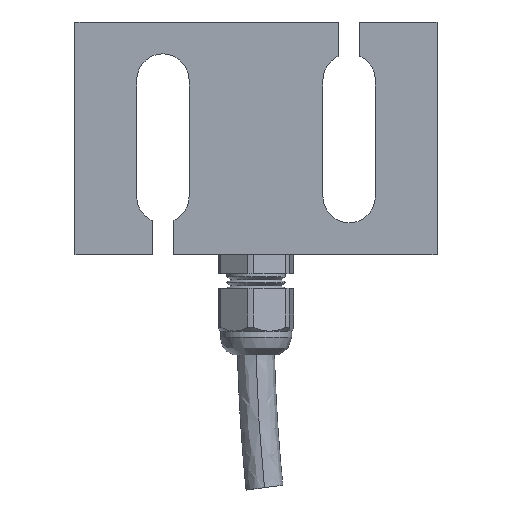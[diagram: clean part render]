
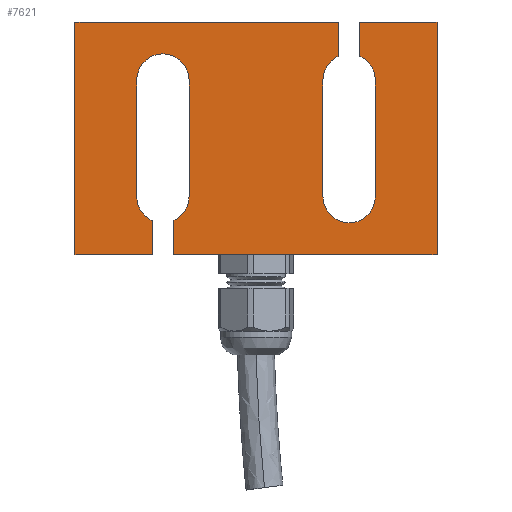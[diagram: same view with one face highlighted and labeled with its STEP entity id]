
A CAD part, left-side view. The second image highlights one B-rep face of the part: STEP entity #7621.
In plain terms, the highlighted planar face has unit normal (-1, 0, 0).
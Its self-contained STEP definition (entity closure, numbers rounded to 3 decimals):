
#671=PLANE('',#8250);
#927=FACE_OUTER_BOUND('',#1400,.T.);
#1400=EDGE_LOOP('',(#5615,#5616,#5617,#5618,#5619,#5620,#5621,#5622,#5623,
#5624,#5625,#5626,#5627,#5628,#5629,#5630,#5631,#5632,#5633,#5634));
#1933=LINE('',#10859,#2520);
#1934=LINE('',#10861,#2521);
#1935=LINE('',#10863,#2522);
#1936=LINE('',#10865,#2523);
#1937=LINE('',#10867,#2524);
#1938=LINE('',#10871,#2525);
#1939=LINE('',#10875,#2526);
#1940=LINE('',#10879,#2527);
#1941=LINE('',#10881,#2528);
#1942=LINE('',#10883,#2529);
#1943=LINE('',#10885,#2530);
#1944=LINE('',#10887,#2531);
#1945=LINE('',#10891,#2532);
#1946=LINE('',#10894,#2533);
#2520=VECTOR('',#9108,1000.);
#2521=VECTOR('',#9109,1000.);
#2522=VECTOR('',#9110,1000.);
#2523=VECTOR('',#9111,1000.);
#2524=VECTOR('',#9112,1000.);
#2525=VECTOR('',#9115,1000.);
#2526=VECTOR('',#9118,1000.);
#2527=VECTOR('',#9121,1000.);
#2528=VECTOR('',#9122,1000.);
#2529=VECTOR('',#9123,1000.);
#2530=VECTOR('',#9124,1000.);
#2531=VECTOR('',#9125,1000.);
#2532=VECTOR('',#9128,1000.);
#2533=VECTOR('',#9131,1000.);
#3141=CIRCLE('',#8251,5.5);
#3142=CIRCLE('',#8252,5.5);
#3143=CIRCLE('',#8253,5.5);
#3144=CIRCLE('',#8254,5.5);
#3145=CIRCLE('',#8255,5.5);
#3146=CIRCLE('',#8256,5.5);
#3396=VERTEX_POINT('',#10855);
#3397=VERTEX_POINT('',#10856);
#3398=VERTEX_POINT('',#10858);
#3399=VERTEX_POINT('',#10860);
#3400=VERTEX_POINT('',#10862);
#3401=VERTEX_POINT('',#10864);
#3402=VERTEX_POINT('',#10866);
#3403=VERTEX_POINT('',#10868);
#3404=VERTEX_POINT('',#10870);
#3405=VERTEX_POINT('',#10872);
#3406=VERTEX_POINT('',#10874);
#3407=VERTEX_POINT('',#10876);
#3408=VERTEX_POINT('',#10878);
#3409=VERTEX_POINT('',#10880);
#3410=VERTEX_POINT('',#10882);
#3411=VERTEX_POINT('',#10884);
#3412=VERTEX_POINT('',#10886);
#3413=VERTEX_POINT('',#10888);
#3414=VERTEX_POINT('',#10890);
#3415=VERTEX_POINT('',#10892);
#4238=EDGE_CURVE('',#3396,#3397,#3141,.T.);
#4239=EDGE_CURVE('',#3397,#3398,#1933,.T.);
#4240=EDGE_CURVE('',#3398,#3399,#1934,.T.);
#4241=EDGE_CURVE('',#3399,#3400,#1935,.T.);
#4242=EDGE_CURVE('',#3400,#3401,#1936,.T.);
#4243=EDGE_CURVE('',#3401,#3402,#1937,.T.);
#4244=EDGE_CURVE('',#3402,#3403,#3142,.T.);
#4245=EDGE_CURVE('',#3403,#3404,#1938,.T.);
#4246=EDGE_CURVE('',#3404,#3405,#3143,.T.);
#4247=EDGE_CURVE('',#3405,#3406,#1939,.T.);
#4248=EDGE_CURVE('',#3406,#3407,#3144,.T.);
#4249=EDGE_CURVE('',#3407,#3408,#1940,.T.);
#4250=EDGE_CURVE('',#3408,#3409,#1941,.T.);
#4251=EDGE_CURVE('',#3409,#3410,#1942,.T.);
#4252=EDGE_CURVE('',#3410,#3411,#1943,.T.);
#4253=EDGE_CURVE('',#3411,#3412,#1944,.T.);
#4254=EDGE_CURVE('',#3412,#3413,#3145,.T.);
#4255=EDGE_CURVE('',#3413,#3414,#1945,.T.);
#4256=EDGE_CURVE('',#3414,#3415,#3146,.T.);
#4257=EDGE_CURVE('',#3415,#3396,#1946,.T.);
#5615=ORIENTED_EDGE('',*,*,#4238,.T.);
#5616=ORIENTED_EDGE('',*,*,#4239,.T.);
#5617=ORIENTED_EDGE('',*,*,#4240,.T.);
#5618=ORIENTED_EDGE('',*,*,#4241,.T.);
#5619=ORIENTED_EDGE('',*,*,#4242,.T.);
#5620=ORIENTED_EDGE('',*,*,#4243,.T.);
#5621=ORIENTED_EDGE('',*,*,#4244,.T.);
#5622=ORIENTED_EDGE('',*,*,#4245,.T.);
#5623=ORIENTED_EDGE('',*,*,#4246,.T.);
#5624=ORIENTED_EDGE('',*,*,#4247,.T.);
#5625=ORIENTED_EDGE('',*,*,#4248,.T.);
#5626=ORIENTED_EDGE('',*,*,#4249,.T.);
#5627=ORIENTED_EDGE('',*,*,#4250,.T.);
#5628=ORIENTED_EDGE('',*,*,#4251,.T.);
#5629=ORIENTED_EDGE('',*,*,#4252,.T.);
#5630=ORIENTED_EDGE('',*,*,#4253,.T.);
#5631=ORIENTED_EDGE('',*,*,#4254,.T.);
#5632=ORIENTED_EDGE('',*,*,#4255,.T.);
#5633=ORIENTED_EDGE('',*,*,#4256,.T.);
#5634=ORIENTED_EDGE('',*,*,#4257,.T.);
#7621=ADVANCED_FACE('',(#927),#671,.T.);
#8250=AXIS2_PLACEMENT_3D('',#10854,#9104,#9105);
#8251=AXIS2_PLACEMENT_3D('',#10857,#9106,#9107);
#8252=AXIS2_PLACEMENT_3D('',#10869,#9113,#9114);
#8253=AXIS2_PLACEMENT_3D('',#10873,#9116,#9117);
#8254=AXIS2_PLACEMENT_3D('',#10877,#9119,#9120);
#8255=AXIS2_PLACEMENT_3D('',#10889,#9126,#9127);
#8256=AXIS2_PLACEMENT_3D('',#10893,#9129,#9130);
#9104=DIRECTION('center_axis',(-1.,0.,0.));
#9105=DIRECTION('ref_axis',(0.,0.,1.));
#9106=DIRECTION('center_axis',(1.,0.,0.));
#9107=DIRECTION('ref_axis',(0.,0.,1.));
#9108=DIRECTION('',(0.,0.,-1.));
#9109=DIRECTION('',(0.,-1.,0.));
#9110=DIRECTION('',(0.,0.,1.));
#9111=DIRECTION('',(0.,1.,0.));
#9112=DIRECTION('',(0.,0.,-1.));
#9113=DIRECTION('center_axis',(1.,0.,0.));
#9114=DIRECTION('ref_axis',(0.,0.,1.));
#9115=DIRECTION('',(0.,0.,-1.));
#9116=DIRECTION('center_axis',(1.,0.,0.));
#9117=DIRECTION('ref_axis',(0.,0.,1.));
#9118=DIRECTION('',(0.,0.,1.));
#9119=DIRECTION('center_axis',(1.,0.,0.));
#9120=DIRECTION('ref_axis',(0.,0.,1.));
#9121=DIRECTION('',(0.,0.,1.));
#9122=DIRECTION('',(0.,1.,0.));
#9123=DIRECTION('',(0.,0.,-1.));
#9124=DIRECTION('',(0.,-1.,0.));
#9125=DIRECTION('',(0.,0.,1.));
#9126=DIRECTION('center_axis',(1.,0.,0.));
#9127=DIRECTION('ref_axis',(0.,0.,1.));
#9128=DIRECTION('',(0.,0.,1.));
#9129=DIRECTION('center_axis',(1.,0.,0.));
#9130=DIRECTION('ref_axis',(0.,0.,1.));
#9131=DIRECTION('',(0.,0.,-1.));
#10854=CARTESIAN_POINT('Origin',(-30.,22.066,-15.257));
#10855=CARTESIAN_POINT('',(-30.,16.566,-15.257));
#10856=CARTESIAN_POINT('',(-30.,19.766,-20.253));
#10857=CARTESIAN_POINT('Origin',(-30.,22.066,-15.257));
#10858=CARTESIAN_POINT('',(-30.,19.766,-27.457));
#10859=CARTESIAN_POINT('',(-30.,19.766,-20.253));
#10860=CARTESIAN_POINT('',(-30.,-35.634,-27.457));
#10861=CARTESIAN_POINT('',(-30.,19.766,-27.457));
#10862=CARTESIAN_POINT('',(-30.,-35.634,21.543));
#10863=CARTESIAN_POINT('',(-30.,-35.634,-27.457));
#10864=CARTESIAN_POINT('',(-30.,-19.334,21.543));
#10865=CARTESIAN_POINT('',(-30.,-35.634,21.543));
#10866=CARTESIAN_POINT('',(-30.,-19.334,14.384));
#10867=CARTESIAN_POINT('',(-30.,-19.334,21.543));
#10868=CARTESIAN_POINT('',(-30.,-22.634,9.343));
#10869=CARTESIAN_POINT('Origin',(-30.,-17.134,9.343));
#10870=CARTESIAN_POINT('',(-30.,-22.634,-15.257));
#10871=CARTESIAN_POINT('',(-30.,-22.634,-15.257));
#10872=CARTESIAN_POINT('',(-30.,-11.634,-15.257));
#10873=CARTESIAN_POINT('Origin',(-30.,-17.134,-15.257));
#10874=CARTESIAN_POINT('',(-30.,-11.634,9.343));
#10875=CARTESIAN_POINT('',(-30.,-11.634,-15.257));
#10876=CARTESIAN_POINT('',(-30.,-14.834,14.339));
#10877=CARTESIAN_POINT('Origin',(-30.,-17.134,9.343));
#10878=CARTESIAN_POINT('',(-30.,-14.834,21.543));
#10879=CARTESIAN_POINT('',(-30.,-14.834,14.339));
#10880=CARTESIAN_POINT('',(-30.,40.566,21.543));
#10881=CARTESIAN_POINT('',(-30.,-14.834,21.543));
#10882=CARTESIAN_POINT('',(-30.,40.566,-27.457));
#10883=CARTESIAN_POINT('',(-30.,40.566,21.543));
#10884=CARTESIAN_POINT('',(-30.,24.266,-27.457));
#10885=CARTESIAN_POINT('',(-30.,40.566,-27.457));
#10886=CARTESIAN_POINT('',(-30.,24.266,-20.298));
#10887=CARTESIAN_POINT('',(-30.,24.266,-27.457));
#10888=CARTESIAN_POINT('',(-30.,27.566,-15.257));
#10889=CARTESIAN_POINT('Origin',(-30.,22.066,-15.257));
#10890=CARTESIAN_POINT('',(-30.,27.566,9.343));
#10891=CARTESIAN_POINT('',(-30.,27.566,9.343));
#10892=CARTESIAN_POINT('',(-30.,16.566,9.343));
#10893=CARTESIAN_POINT('Origin',(-30.,22.066,9.343));
#10894=CARTESIAN_POINT('',(-30.,16.566,9.343));
